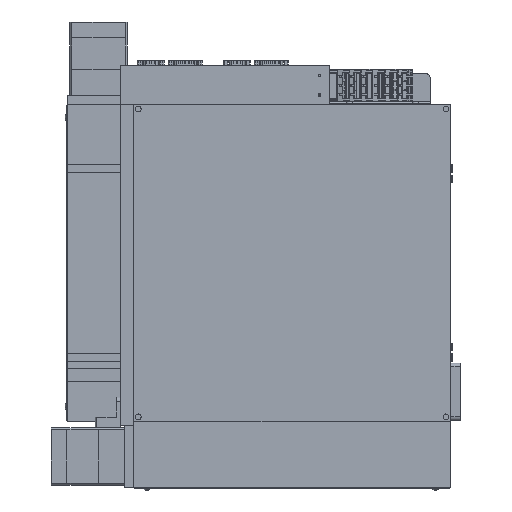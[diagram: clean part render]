
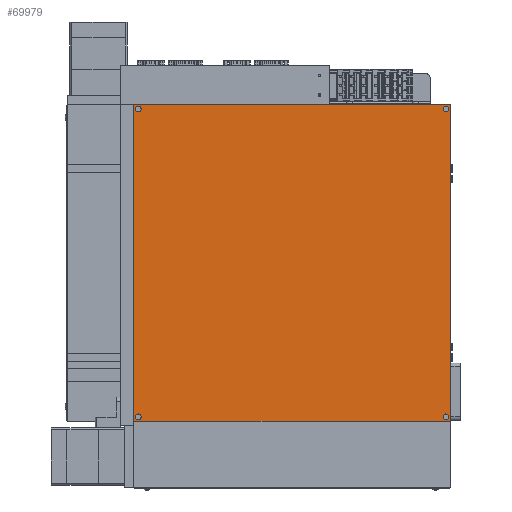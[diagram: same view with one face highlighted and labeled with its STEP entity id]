
A CAD part, front view. The second image highlights one B-rep face of the part: STEP entity #69979.
In plain terms, the highlighted planar face has unit normal (0, -1, 0).
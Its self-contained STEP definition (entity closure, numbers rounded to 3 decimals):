
#887 = DIRECTION ( 'NONE',  ( 0., 1., 0. ) ) ;
#2976 = DIRECTION ( 'NONE',  ( 0., 1., 0. ) ) ;
#3435 = CARTESIAN_POINT ( 'NONE',  ( 175., 0., 171.7 ) ) ;
#3905 = DIRECTION ( 'NONE',  ( 0., 1., 0. ) ) ;
#4259 = LINE ( 'NONE', #64812, #10951 ) ;
#4817 = FACE_BOUND ( 'NONE', #26860, .T. ) ;
#5087 = VERTEX_POINT ( 'NONE', #89298 ) ;
#5824 = CARTESIAN_POINT ( 'NONE',  ( -180., 0., 180. ) ) ;
#8544 = EDGE_LOOP ( 'NONE', ( #40008, #84366, #10550, #28933 ) ) ;
#9263 = AXIS2_PLACEMENT_3D ( 'NONE', #61178, #3905, #82599 ) ;
#10550 = ORIENTED_EDGE ( 'NONE', *, *, #32055, .F. ) ;
#10951 = VECTOR ( 'NONE', #22138, 1000. ) ;
#11518 = CIRCLE ( 'NONE', #62142, 3.3 ) ;
#12031 = DIRECTION ( 'NONE',  ( 1., 0., 0. ) ) ;
#12054 = ORIENTED_EDGE ( 'NONE', *, *, #24036, .T. ) ;
#12650 = ORIENTED_EDGE ( 'NONE', *, *, #46713, .T. ) ;
#14889 = EDGE_CURVE ( 'NONE', #5087, #90134, #91957, .T. ) ;
#15293 = VERTEX_POINT ( 'NONE', #58371 ) ;
#16507 = CARTESIAN_POINT ( 'NONE',  ( -175., 0., -171.7 ) ) ;
#17817 = VERTEX_POINT ( 'NONE', #16507 ) ;
#19522 = DIRECTION ( 'NONE',  ( 0., 0., 1. ) ) ;
#22028 = DIRECTION ( 'NONE',  ( 0., 0., 1. ) ) ;
#22138 = DIRECTION ( 'NONE',  ( 0., 0., -1. ) ) ;
#22468 = VERTEX_POINT ( 'NONE', #51523 ) ;
#23514 = EDGE_CURVE ( 'NONE', #84236, #41702, #81495, .T. ) ;
#23825 = FACE_BOUND ( 'NONE', #40561, .T. ) ;
#24036 = EDGE_CURVE ( 'NONE', #73566, #15293, #29027, .T. ) ;
#24464 = DIRECTION ( 'NONE',  ( 0., 1., 0. ) ) ;
#26353 = CARTESIAN_POINT ( 'NONE',  ( -175., 0., -175. ) ) ;
#26610 = DIRECTION ( 'NONE',  ( 0., 1., 0. ) ) ;
#26661 = DIRECTION ( 'NONE',  ( 0., 0., 1. ) ) ;
#26860 = EDGE_LOOP ( 'NONE', ( #77257, #35063 ) ) ;
#27602 = DIRECTION ( 'NONE',  ( 0., 1., 0. ) ) ;
#28933 = ORIENTED_EDGE ( 'NONE', *, *, #42959, .F. ) ;
#29027 = CIRCLE ( 'NONE', #31011, 3.3 ) ;
#29310 = CARTESIAN_POINT ( 'NONE',  ( -175., 0., 178.3 ) ) ;
#31011 = AXIS2_PLACEMENT_3D ( 'NONE', #76117, #26610, #55585 ) ;
#31164 = EDGE_CURVE ( 'NONE', #15293, #73566, #78890, .T. ) ;
#31377 = AXIS2_PLACEMENT_3D ( 'NONE', #52925, #45183, #38015 ) ;
#32055 = EDGE_CURVE ( 'NONE', #91960, #88792, #4259, .T. ) ;
#33884 = FACE_BOUND ( 'NONE', #36605, .T. ) ;
#35063 = ORIENTED_EDGE ( 'NONE', *, *, #52849, .T. ) ;
#36605 = EDGE_LOOP ( 'NONE', ( #50442, #90943 ) ) ;
#37722 = PLANE ( 'NONE',  #75514 ) ;
#38015 = DIRECTION ( 'NONE',  ( 0., 0., 1. ) ) ;
#40008 = ORIENTED_EDGE ( 'NONE', *, *, #86240, .F. ) ;
#40561 = EDGE_LOOP ( 'NONE', ( #90786, #12054 ) ) ;
#41687 = DIRECTION ( 'NONE',  ( 0., 1., 0. ) ) ;
#41702 = VERTEX_POINT ( 'NONE', #43180 ) ;
#42959 = EDGE_CURVE ( 'NONE', #22468, #91960, #70918, .T. ) ;
#43180 = CARTESIAN_POINT ( 'NONE',  ( 175., 0., 178.3 ) ) ;
#43988 = CIRCLE ( 'NONE', #9263, 3.3 ) ;
#44340 = CARTESIAN_POINT ( 'NONE',  ( 180., 0., 180. ) ) ;
#45183 = DIRECTION ( 'NONE',  ( 0., 1., 0. ) ) ;
#46713 = EDGE_CURVE ( 'NONE', #41702, #84236, #77859, .T. ) ;
#46845 = EDGE_CURVE ( 'NONE', #17817, #82405, #66243, .T. ) ;
#47748 = DIRECTION ( 'NONE',  ( 0., 0., 1. ) ) ;
#49186 = EDGE_LOOP ( 'NONE', ( #12650, #74393 ) ) ;
#49930 = AXIS2_PLACEMENT_3D ( 'NONE', #26353, #41687, #26661 ) ;
#50442 = ORIENTED_EDGE ( 'NONE', *, *, #74863, .T. ) ;
#50601 = FACE_BOUND ( 'NONE', #49186, .T. ) ;
#50980 = CARTESIAN_POINT ( 'NONE',  ( -180., 0., -180. ) ) ;
#51523 = CARTESIAN_POINT ( 'NONE',  ( -180., 0., 180. ) ) ;
#52802 = CARTESIAN_POINT ( 'NONE',  ( -175., 0., 175. ) ) ;
#52849 = EDGE_CURVE ( 'NONE', #82405, #17817, #43988, .T. ) ;
#52925 = CARTESIAN_POINT ( 'NONE',  ( 175., 0., 175. ) ) ;
#53896 = CARTESIAN_POINT ( 'NONE',  ( 180., 0., -180. ) ) ;
#55585 = DIRECTION ( 'NONE',  ( 0., 0., 1. ) ) ;
#58371 = CARTESIAN_POINT ( 'NONE',  ( 175., 0., -171.7 ) ) ;
#59335 = DIRECTION ( 'NONE',  ( 0., 0., 1. ) ) ;
#59701 = CARTESIAN_POINT ( 'NONE',  ( -175., 0., 175. ) ) ;
#61178 = CARTESIAN_POINT ( 'NONE',  ( -175., 0., -175. ) ) ;
#62142 = AXIS2_PLACEMENT_3D ( 'NONE', #52802, #2976, #59335 ) ;
#62183 = CARTESIAN_POINT ( 'NONE',  ( 175., 0., -175. ) ) ;
#62901 = LINE ( 'NONE', #50980, #84036 ) ;
#63136 = VECTOR ( 'NONE', #12031, 1000. ) ;
#64051 = DIRECTION ( 'NONE',  ( -1., 0., 0. ) ) ;
#64481 = CARTESIAN_POINT ( 'NONE',  ( -175., 0., -178.3 ) ) ;
#64812 = CARTESIAN_POINT ( 'NONE',  ( 180., 0., -180. ) ) ;
#66243 = CIRCLE ( 'NONE', #49930, 3.3 ) ;
#66302 = DIRECTION ( 'NONE',  ( 0., 1., 0. ) ) ;
#66823 = DIRECTION ( 'NONE',  ( 0., 0., 1. ) ) ;
#68110 = LINE ( 'NONE', #90426, #84777 ) ;
#68493 = AXIS2_PLACEMENT_3D ( 'NONE', #79880, #887, #22028 ) ;
#69979 = ADVANCED_FACE ( 'NONE', ( #33884, #4817, #23825, #50601, #80510 ), #37722, .F. ) ;
#70918 = LINE ( 'NONE', #5824, #63136 ) ;
#73566 = VERTEX_POINT ( 'NONE', #77609 ) ;
#74393 = ORIENTED_EDGE ( 'NONE', *, *, #23514, .T. ) ;
#74863 = EDGE_CURVE ( 'NONE', #90134, #5087, #11518, .T. ) ;
#75514 = AXIS2_PLACEMENT_3D ( 'NONE', #87470, #66302, #86853 ) ;
#76117 = CARTESIAN_POINT ( 'NONE',  ( 175., 0., -175. ) ) ;
#77257 = ORIENTED_EDGE ( 'NONE', *, *, #46845, .T. ) ;
#77609 = CARTESIAN_POINT ( 'NONE',  ( 175., 0., -178.3 ) ) ;
#77859 = CIRCLE ( 'NONE', #31377, 3.3 ) ;
#78006 = EDGE_CURVE ( 'NONE', #88792, #80389, #62901, .T. ) ;
#78890 = CIRCLE ( 'NONE', #90023, 3.3 ) ;
#79880 = CARTESIAN_POINT ( 'NONE',  ( 175., 0., 175. ) ) ;
#80389 = VERTEX_POINT ( 'NONE', #83149 ) ;
#80510 = FACE_OUTER_BOUND ( 'NONE', #8544, .T. ) ;
#81374 = AXIS2_PLACEMENT_3D ( 'NONE', #59701, #24464, #66823 ) ;
#81495 = CIRCLE ( 'NONE', #68493, 3.3 ) ;
#82405 = VERTEX_POINT ( 'NONE', #64481 ) ;
#82599 = DIRECTION ( 'NONE',  ( 0., 0., 1. ) ) ;
#83149 = CARTESIAN_POINT ( 'NONE',  ( -180., 0., -180. ) ) ;
#84036 = VECTOR ( 'NONE', #64051, 1000. ) ;
#84236 = VERTEX_POINT ( 'NONE', #3435 ) ;
#84366 = ORIENTED_EDGE ( 'NONE', *, *, #78006, .F. ) ;
#84777 = VECTOR ( 'NONE', #47748, 1000. ) ;
#86240 = EDGE_CURVE ( 'NONE', #80389, #22468, #68110, .T. ) ;
#86853 = DIRECTION ( 'NONE',  ( 0., 0., 1. ) ) ;
#87470 = CARTESIAN_POINT ( 'NONE',  ( 0., 0., 0. ) ) ;
#88792 = VERTEX_POINT ( 'NONE', #53896 ) ;
#89298 = CARTESIAN_POINT ( 'NONE',  ( -175., 0., 171.7 ) ) ;
#90023 = AXIS2_PLACEMENT_3D ( 'NONE', #62183, #27602, #19522 ) ;
#90134 = VERTEX_POINT ( 'NONE', #29310 ) ;
#90426 = CARTESIAN_POINT ( 'NONE',  ( -180., 0., -180. ) ) ;
#90786 = ORIENTED_EDGE ( 'NONE', *, *, #31164, .T. ) ;
#90943 = ORIENTED_EDGE ( 'NONE', *, *, #14889, .T. ) ;
#91957 = CIRCLE ( 'NONE', #81374, 3.3 ) ;
#91960 = VERTEX_POINT ( 'NONE', #44340 ) ;
